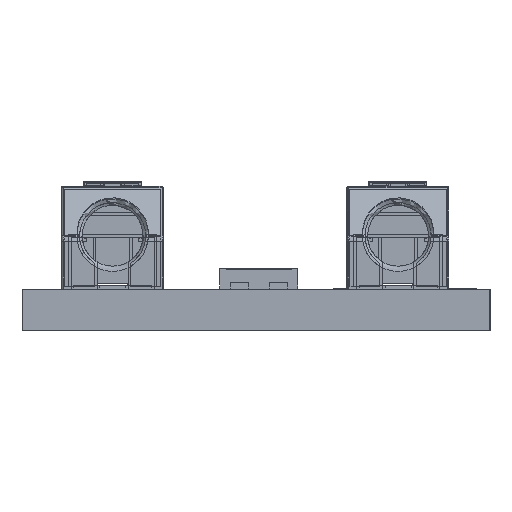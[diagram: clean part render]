
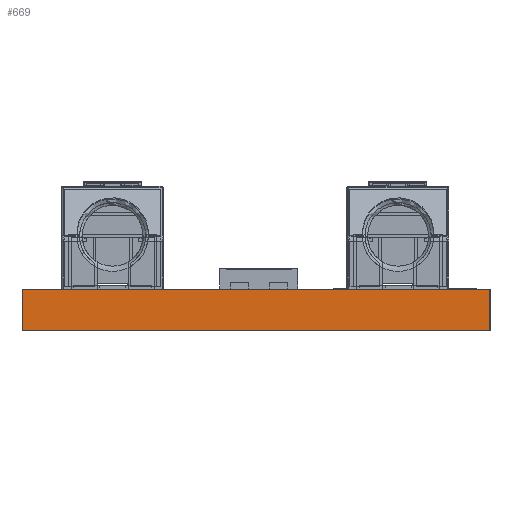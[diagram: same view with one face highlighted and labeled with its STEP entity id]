
A CAD part, left-side view. The second image highlights one B-rep face of the part: STEP entity #669.
In plain terms, the highlighted planar face has unit normal (-1, 0, 0).
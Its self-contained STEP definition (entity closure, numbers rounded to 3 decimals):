
#669=ADVANCED_FACE('',(#4339),#2631,.F.);
#2631=PLANE('',#41057);
#4339=FACE_OUTER_BOUND('',#6272,.T.);
#6272=EDGE_LOOP('',(#8570,#8571,#8572,#8573));
#8570=ORIENTED_EDGE('',*,*,#22882,.T.);
#8571=ORIENTED_EDGE('',*,*,#22883,.F.);
#8572=ORIENTED_EDGE('',*,*,#22884,.F.);
#8573=ORIENTED_EDGE('',*,*,#22880,.T.);
#19246=VERTEX_POINT('',#84250);
#19247=VERTEX_POINT('',#84252);
#19248=VERTEX_POINT('',#84256);
#19249=VERTEX_POINT('',#84258);
#22880=EDGE_CURVE('',#19247,#19246,#30780,.T.);
#22882=EDGE_CURVE('',#19246,#19248,#30782,.T.);
#22883=EDGE_CURVE('',#19249,#19248,#30783,.T.);
#22884=EDGE_CURVE('',#19247,#19249,#30784,.T.);
#30780=LINE('',#84251,#36168);
#30782=LINE('',#84255,#36170);
#30783=LINE('',#84257,#36171);
#30784=LINE('',#84259,#36172);
#36168=VECTOR('',#44121,1.);
#36170=VECTOR('',#44125,1.);
#36171=VECTOR('',#44126,1.);
#36172=VECTOR('',#44127,1.);
#41057=AXIS2_PLACEMENT_3D('',#84260,#44128,#44129);
#44121=DIRECTION('',(0.,0.,1.));
#44125=DIRECTION('',(0.,1.,0.));
#44126=DIRECTION('',(0.,0.,1.));
#44127=DIRECTION('',(0.,1.,0.));
#44128=DIRECTION('',(1.,0.,0.));
#44129=DIRECTION('',(0.,0.,-1.));
#84250=CARTESIAN_POINT('',(0.,0.,0.));
#84251=CARTESIAN_POINT('',(0.,0.,-1.6));
#84252=CARTESIAN_POINT('',(0.,0.,-1.6));
#84255=CARTESIAN_POINT('',(0.,0.,0.));
#84256=CARTESIAN_POINT('',(0.,17.999,0.));
#84257=CARTESIAN_POINT('',(0.,17.999,-1.6));
#84258=CARTESIAN_POINT('',(0.,17.999,-1.6));
#84259=CARTESIAN_POINT('',(0.,0.,-1.6));
#84260=CARTESIAN_POINT('',(0.,0.,-1.6));
